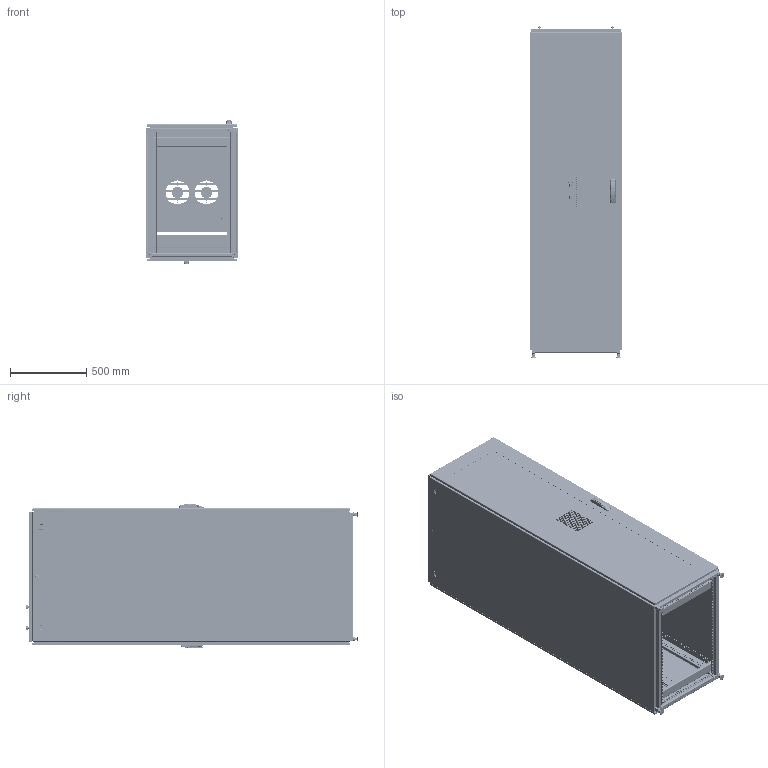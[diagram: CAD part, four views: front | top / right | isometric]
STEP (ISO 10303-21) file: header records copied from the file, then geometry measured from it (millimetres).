
FILE_DESCRIPTION (( 'STEP AP203' ), '1' );
FILE_NAME ('ps1s2169b.STEP', '2019-11-01T16:37:28', ( '' ), ( '' ), 'SwSTEP 2.0', 'SolidWorks 2016', '' );
FILE_SCHEMA (( 'CONFIG_CONTROL_DESIGN' ));
Length unit declared in the file: millimetre
Products named in the file (91): 60127199_60127199; 89165870; 89092909_87788538; 87927840_87927840; 60127101_60127101; 89101845; 99411296_99411296; 89165659; 89165761; 89093704; 99411237_99411237; 64201001; 11258733_Full Length flat; 11158141_11158141; 87753837_87753837; 89093700; 60127101_After Weld; 30127061; 89165526_89165526; 89165542_89165542; 89165763; 11158139_11158139; 89165741_87788602; 89165658; 89165762; 87541995; 89091664_875472289; 87931368_SLEEVE; 11258598_11258598; 60127024_As installed; 89165660_87788601; 99401452; 89090302; 87931527_87931527; 87755569; 89165656; 87790199; 11258030_11258030; ps1s2169b; 27131001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
Assembly tree (210 placements, depth 5):
  ps1s2169b
    89165542_89165542
      60127013  x8
      89092827  x4
      30127077  x4
      30127061  x4
    60127024_As installed  x8
    87790199  x6
    89090302  x6
      89090300
        89090299_87790201
        60127135_installed position SS  x2
        87543196_Installed  x2
      60127199_60127199
      56906712_56906712
    89165655
      89165656
        89165657_87788599
        60127101_60127101  x2
        60100041_60100041  x2
          87931527_87931527
          87931368_SLEEVE
        89093694_87788602
        99411910  x2
        87931362_87931362  x2
      60127372_60127372
        11158139_11158139
        11258030_11258030
        11458172_11458172
        60127208
        60127207
        11458171_11458171
        11358776_11358776
        11158180_11158180
        11258029_11258029
        11158141_11158141
        11158140_11158140
      89092909_87788538  x2
      27131001  x2
      91120001_91120001  x2
      87938982_87938982
        64201001
        87541995
        87932266
        87927840_87927840
        64210001
        87950638_87950638
        11258598_11258598
        99401452  x2
      87932903  x2
      87792981  x2
      87792979  x2
      89168254_1 INCH SQUARE  x2
    89165658
      89165659
        89165660_87788601
        60127101_60127101  x2
        60100041_60100041  x2
          87931527_87931527
          87931368_SLEEVE
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Bounding box: 610.88 x 2181.62 x 947.82 mm (x, y, z)
Volume: 18076869.7 mm3; surface area: 21437888.2 mm2
Topology: 263 solids, 304 shells, 32596 faces, 88183 edges, 56710 vertices
Faces by surface type: plane 16036, cylinder 12947, bspline 1395, torus 1244, cone 959, sphere 15
Entity records: 520264 total; most frequent: CARTESIAN_POINT 140062, ORIENTED_EDGE 76098, DIRECTION 75327, EDGE_CURVE 38069, AXIS2_PLACEMENT_3D 26943, VERTEX_POINT 24591, LINE 21441, VECTOR 21441
